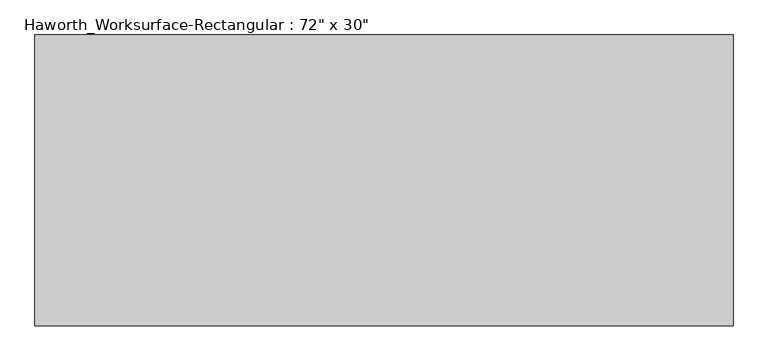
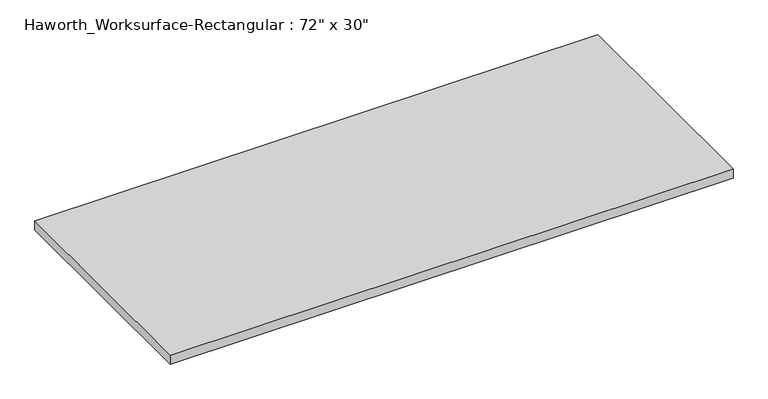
"""IFC4 building model written with IfcOpenShell, lengths in millimetres: furniture geometry."""

from ifc_helpers import new_model, si_unit, frame, origin, place, context, project, spatial, polyline, outline, extrude, source, transform, mapped, element, save


def furniture_2d942bea(model_context):
    return source(origin(), model_context, "Body", "SweptSolid", [
        extrude(outline(polyline([(914.4, 381.0), (914.4, -381.0), (-914.4, -381.0), (-914.4, 381.0), (914.4, 381.0)])), frame((0.0, 0.0, 706.4375), z_axis=(0.0, 0.0, 1.0), x_axis=(1.0, 0.0, 0.0)), (0.0, 0.0, 1.0), 30.1625),
    ])


if __name__ == "__main__":
    model = new_model("IFC4")
    model_context = context("Model", 3, world=origin())
    ifc_project = project(units=[si_unit("LENGTHUNIT", "METRE", prefix="MILLI")], contexts=[model_context])
    site = spatial("IfcSite", under=ifc_project)
    building = spatial("IfcBuilding", under=site)
    placement = place(None, origin())
    furniture_shape = furniture_2d942bea(model_context)
    element("IfcFurniture", 1, ObjectType="Haworth_Worksurface-Rectangular : 72\" x 30\"", at=placement, inside=building, context=model_context, shape_type="MappedRepresentation", body=[
        mapped(furniture_shape, transform((0.0, 0.0, 0.0), x_axis=(1.0, 0.0, 0.0), y_axis=(0.0, 1.0, 0.0), z_axis=(0.0, 0.0, 1.0))),
    ])
    save(model, "model.ifc")
